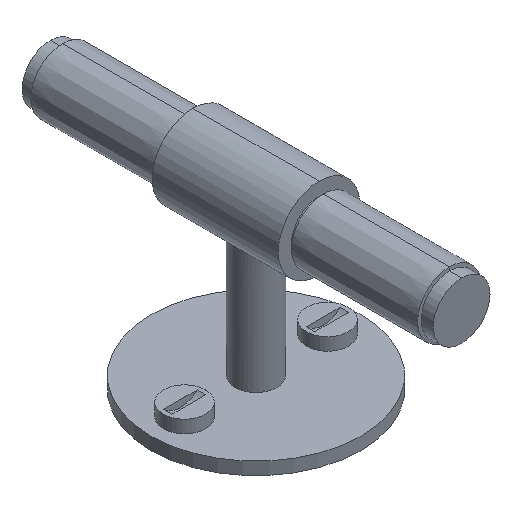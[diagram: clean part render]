
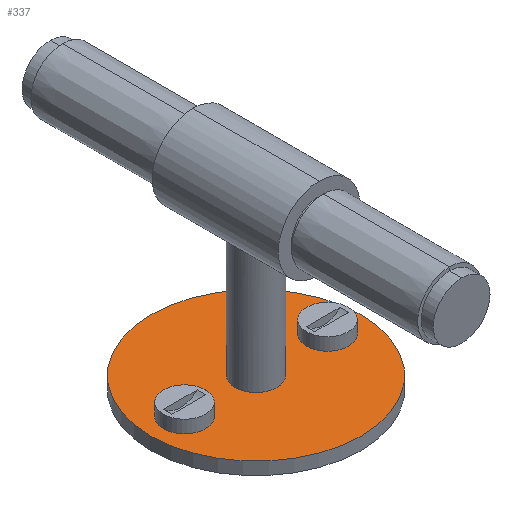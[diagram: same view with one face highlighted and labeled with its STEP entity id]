
A CAD part, isometric view. The second image highlights one B-rep face of the part: STEP entity #337.
In plain terms, the highlighted planar face has unit normal (0, 0, 1).
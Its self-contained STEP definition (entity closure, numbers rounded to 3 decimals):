
#5 = CIRCLE ( 'NONE', #696, 5. ) ;
#58 = DIRECTION ( 'NONE',  ( 0., 0., -1. ) ) ;
#70 = VERTEX_POINT ( 'NONE', #165 ) ;
#73 = CIRCLE ( 'NONE', #194, 5. ) ;
#92 = FACE_BOUND ( 'NONE', #366, .T. ) ;
#100 = EDGE_LOOP ( 'NONE', ( #245, #111 ) ) ;
#104 = CARTESIAN_POINT ( 'NONE',  ( 12., 0., -40. ) ) ;
#111 = ORIENTED_EDGE ( 'NONE', *, *, #389, .F. ) ;
#114 = CIRCLE ( 'NONE', #1084, 25. ) ;
#164 = CARTESIAN_POINT ( 'NONE',  ( -17., 0., -40. ) ) ;
#165 = CARTESIAN_POINT ( 'NONE',  ( 25., 0., -40. ) ) ;
#170 = CIRCLE ( 'NONE', #1136, 5. ) ;
#194 = AXIS2_PLACEMENT_3D ( 'NONE', #292, #964, #386 ) ;
#216 = CARTESIAN_POINT ( 'NONE',  ( 0., 0., -40. ) ) ;
#223 = DIRECTION ( 'NONE',  ( 0., 0., -1. ) ) ;
#224 = ORIENTED_EDGE ( 'NONE', *, *, #923, .T. ) ;
#234 = AXIS2_PLACEMENT_3D ( 'NONE', #1164, #565, #1252 ) ;
#239 = AXIS2_PLACEMENT_3D ( 'NONE', #632, #58, #721 ) ;
#245 = ORIENTED_EDGE ( 'NONE', *, *, #253, .F. ) ;
#253 = EDGE_CURVE ( 'NONE', #887, #1160, #631, .T. ) ;
#258 = DIRECTION ( 'NONE',  ( -1., 0., 0. ) ) ;
#292 = CARTESIAN_POINT ( 'NONE',  ( 17., 0., -40. ) ) ;
#317 = DIRECTION ( 'NONE',  ( -1., 0., 0. ) ) ;
#328 = AXIS2_PLACEMENT_3D ( 'NONE', #705, #517, #1130 ) ;
#337 = ADVANCED_FACE ( 'NONE', ( #429, #816, #1092, #92 ), #992, .F. ) ;
#344 = DIRECTION ( 'NONE',  ( 0., 0., 1. ) ) ;
#347 = ORIENTED_EDGE ( 'NONE', *, *, #629, .F. ) ;
#366 = EDGE_LOOP ( 'NONE', ( #824, #757 ) ) ;
#370 = CARTESIAN_POINT ( 'NONE',  ( 5., 0., -40. ) ) ;
#386 = DIRECTION ( 'NONE',  ( -1., 0., 0. ) ) ;
#389 = EDGE_CURVE ( 'NONE', #1160, #887, #563, .T. ) ;
#403 = DIRECTION ( 'NONE',  ( 0., 0., -1. ) ) ;
#429 = FACE_BOUND ( 'NONE', #588, .T. ) ;
#430 = EDGE_CURVE ( 'NONE', #536, #562, #73, .T. ) ;
#439 = CARTESIAN_POINT ( 'NONE',  ( -5., 0., -40. ) ) ;
#455 = VERTEX_POINT ( 'NONE', #573 ) ;
#467 = ORIENTED_EDGE ( 'NONE', *, *, #971, .T. ) ;
#472 = EDGE_CURVE ( 'NONE', #562, #536, #5, .T. ) ;
#498 = DIRECTION ( 'NONE',  ( -1., 0., 0. ) ) ;
#517 = DIRECTION ( 'NONE',  ( 0., 0., -1. ) ) ;
#536 = VERTEX_POINT ( 'NONE', #104 ) ;
#562 = VERTEX_POINT ( 'NONE', #764 ) ;
#563 = CIRCLE ( 'NONE', #234, 5. ) ;
#565 = DIRECTION ( 'NONE',  ( 0., 0., 1. ) ) ;
#573 = CARTESIAN_POINT ( 'NONE',  ( -22., 0., -40. ) ) ;
#584 = AXIS2_PLACEMENT_3D ( 'NONE', #216, #891, #317 ) ;
#586 = CARTESIAN_POINT ( 'NONE',  ( -25., 0., -40. ) ) ;
#588 = EDGE_LOOP ( 'NONE', ( #224, #467 ) ) ;
#602 = VERTEX_POINT ( 'NONE', #586 ) ;
#629 = EDGE_CURVE ( 'NONE', #70, #602, #114, .T. ) ;
#631 = CIRCLE ( 'NONE', #584, 5. ) ;
#632 = CARTESIAN_POINT ( 'NONE',  ( -17., 0., -40. ) ) ;
#666 = CIRCLE ( 'NONE', #239, 5. ) ;
#696 = AXIS2_PLACEMENT_3D ( 'NONE', #917, #344, #1024 ) ;
#705 = CARTESIAN_POINT ( 'NONE',  ( 0., 0., -40. ) ) ;
#721 = DIRECTION ( 'NONE',  ( -1., 0., 0. ) ) ;
#757 = ORIENTED_EDGE ( 'NONE', *, *, #472, .F. ) ;
#764 = CARTESIAN_POINT ( 'NONE',  ( 22., 0., -40. ) ) ;
#790 = CARTESIAN_POINT ( 'NONE',  ( 0., 0., -40. ) ) ;
#800 = VERTEX_POINT ( 'NONE', #1200 ) ;
#816 = FACE_OUTER_BOUND ( 'NONE', #1072, .T. ) ;
#824 = ORIENTED_EDGE ( 'NONE', *, *, #430, .F. ) ;
#828 = DIRECTION ( 'NONE',  ( 0., 0., -1. ) ) ;
#887 = VERTEX_POINT ( 'NONE', #370 ) ;
#891 = DIRECTION ( 'NONE',  ( 0., 0., 1. ) ) ;
#899 = DIRECTION ( 'NONE',  ( -1., 0., 0. ) ) ;
#902 = CIRCLE ( 'NONE', #328, 25. ) ;
#917 = CARTESIAN_POINT ( 'NONE',  ( 17., 0., -40. ) ) ;
#920 = EDGE_CURVE ( 'NONE', #602, #70, #902, .T. ) ;
#923 = EDGE_CURVE ( 'NONE', #455, #800, #666, .T. ) ;
#964 = DIRECTION ( 'NONE',  ( 0., 0., 1. ) ) ;
#971 = EDGE_CURVE ( 'NONE', #800, #455, #170, .T. ) ;
#985 = CARTESIAN_POINT ( 'NONE',  ( 0., 0., -40. ) ) ;
#992 = PLANE ( 'NONE',  #1194 ) ;
#1024 = DIRECTION ( 'NONE',  ( -1., 0., 0. ) ) ;
#1072 = EDGE_LOOP ( 'NONE', ( #347, #1137 ) ) ;
#1084 = AXIS2_PLACEMENT_3D ( 'NONE', #790, #223, #899 ) ;
#1092 = FACE_BOUND ( 'NONE', #100, .T. ) ;
#1130 = DIRECTION ( 'NONE',  ( -1., 0., 0. ) ) ;
#1136 = AXIS2_PLACEMENT_3D ( 'NONE', #164, #828, #258 ) ;
#1137 = ORIENTED_EDGE ( 'NONE', *, *, #920, .F. ) ;
#1160 = VERTEX_POINT ( 'NONE', #439 ) ;
#1164 = CARTESIAN_POINT ( 'NONE',  ( 0., 0., -40. ) ) ;
#1194 = AXIS2_PLACEMENT_3D ( 'NONE', #985, #403, #498 ) ;
#1200 = CARTESIAN_POINT ( 'NONE',  ( -12., 0., -40. ) ) ;
#1252 = DIRECTION ( 'NONE',  ( -1., 0., 0. ) ) ;
